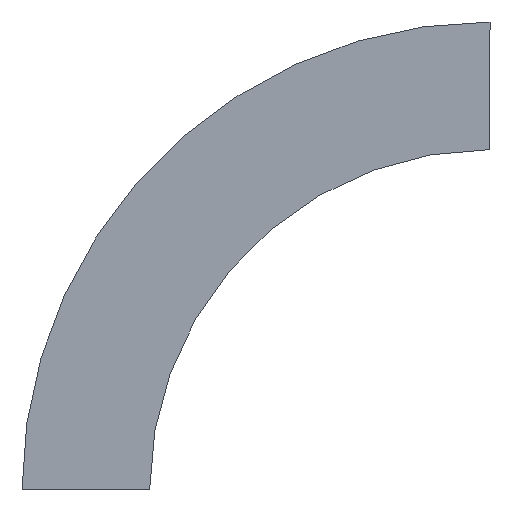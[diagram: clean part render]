
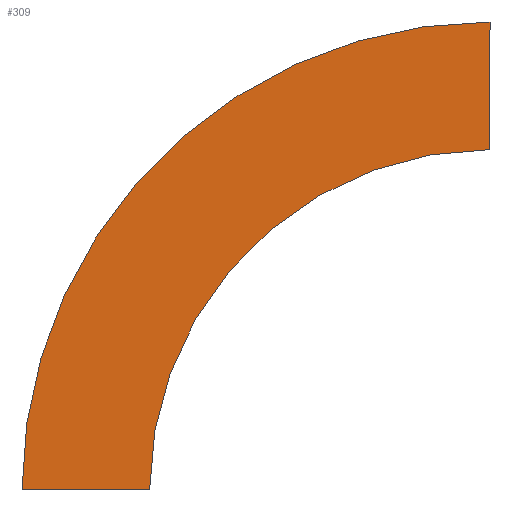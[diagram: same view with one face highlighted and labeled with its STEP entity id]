
A CAD part, left-side view. The second image highlights one B-rep face of the part: STEP entity #309.
In plain terms, the highlighted planar face has unit normal (-1, 0, 0) as drawn and (1, 0, 0) by its records, which use the part's own axes.
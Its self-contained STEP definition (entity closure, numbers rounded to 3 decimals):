
#17 = DIRECTION ( 'NONE',  ( 1., 0., 0. ) ) ;
#19 = ORIENTED_EDGE ( 'NONE', *, *, #435, .T. ) ;
#25 = PLANE ( 'NONE',  #395 ) ;
#41 = AXIS2_PLACEMENT_3D ( 'NONE', #278, #467, #455 ) ;
#57 = CIRCLE ( 'NONE', #41, 412.5 ) ;
#72 = DIRECTION ( 'NONE',  ( 0., 0., 1. ) ) ;
#90 = VERTEX_POINT ( 'NONE', #383 ) ;
#95 = ORIENTED_EDGE ( 'NONE', *, *, #159, .F. ) ;
#110 = CARTESIAN_POINT ( 'NONE',  ( 0., -300., 412.5 ) ) ;
#136 = EDGE_LOOP ( 'NONE', ( #534, #212, #95, #19 ) ) ;
#159 = EDGE_CURVE ( 'NONE', #357, #90, #452, .T. ) ;
#164 = VERTEX_POINT ( 'NONE', #439 ) ;
#202 = DIRECTION ( 'NONE',  ( 0., 0., -1. ) ) ;
#204 = VERTEX_POINT ( 'NONE', #110 ) ;
#212 = ORIENTED_EDGE ( 'NONE', *, *, #496, .F. ) ;
#214 = EDGE_CURVE ( 'NONE', #164, #204, #57, .T. ) ;
#249 = FACE_OUTER_BOUND ( 'NONE', #136, .T. ) ;
#278 = CARTESIAN_POINT ( 'NONE',  ( 0., -300., 0. ) ) ;
#289 = LINE ( 'NONE', #476, #371 ) ;
#309 = ADVANCED_FACE ( 'NONE', ( #249 ), #25, .T. ) ;
#328 = CARTESIAN_POINT ( 'NONE',  ( 0., 0., 0. ) ) ;
#352 = CARTESIAN_POINT ( 'NONE',  ( 0., -300., 0. ) ) ;
#357 = VERTEX_POINT ( 'NONE', #328 ) ;
#371 = VECTOR ( 'NONE', #72, 1000. ) ;
#383 = CARTESIAN_POINT ( 'NONE',  ( 0., -300., 300. ) ) ;
#388 = LINE ( 'NONE', #433, #507 ) ;
#395 = AXIS2_PLACEMENT_3D ( 'NONE', #421, #17, #202 ) ;
#421 = CARTESIAN_POINT ( 'NONE',  ( 0., 0., 0. ) ) ;
#428 = DIRECTION ( 'NONE',  ( 1., 0., 0. ) ) ;
#433 = CARTESIAN_POINT ( 'NONE',  ( 0., 0., 0. ) ) ;
#435 = EDGE_CURVE ( 'NONE', #357, #164, #388, .T. ) ;
#439 = CARTESIAN_POINT ( 'NONE',  ( 0., 112.5, 0. ) ) ;
#452 = CIRCLE ( 'NONE', #505, 300. ) ;
#455 = DIRECTION ( 'NONE',  ( 0., 1., 0. ) ) ;
#467 = DIRECTION ( 'NONE',  ( 1., 0., 0. ) ) ;
#476 = CARTESIAN_POINT ( 'NONE',  ( 0., -300., 300. ) ) ;
#480 = DIRECTION ( 'NONE',  ( 0., 1., 0. ) ) ;
#496 = EDGE_CURVE ( 'NONE', #90, #204, #289, .T. ) ;
#505 = AXIS2_PLACEMENT_3D ( 'NONE', #352, #428, #480 ) ;
#507 = VECTOR ( 'NONE', #529, 1000. ) ;
#529 = DIRECTION ( 'NONE',  ( 0., 1., 0. ) ) ;
#534 = ORIENTED_EDGE ( 'NONE', *, *, #214, .T. ) ;
